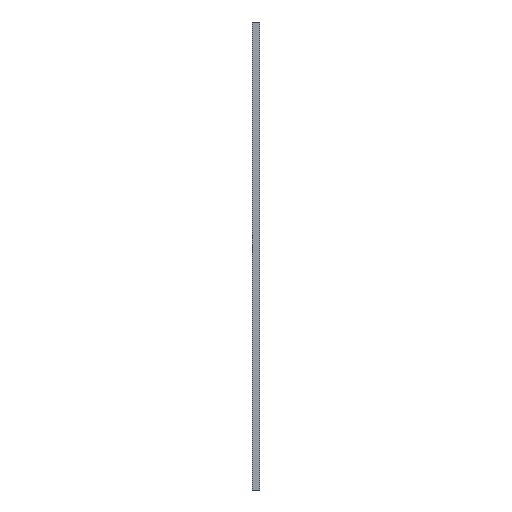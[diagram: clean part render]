
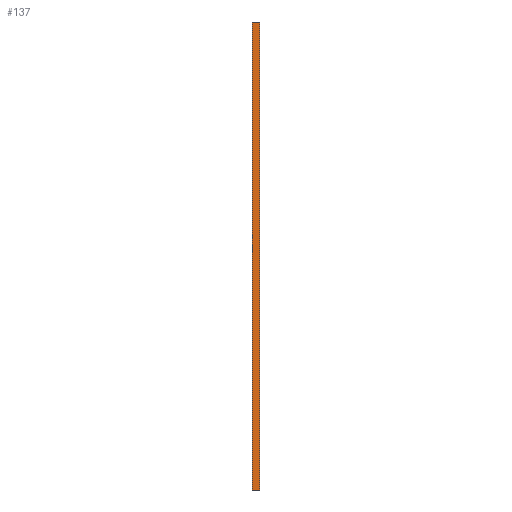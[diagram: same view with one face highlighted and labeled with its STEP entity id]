
A CAD part, front view. The second image highlights one B-rep face of the part: STEP entity #137.
In plain terms, the highlighted planar face has unit normal (0, -1, 0).
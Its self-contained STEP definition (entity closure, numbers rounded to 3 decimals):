
#21 = EDGE_CURVE('',#22,#24,#26,.T.);
#22 = VERTEX_POINT('',#23);
#23 = CARTESIAN_POINT('',(1254.,-210.,-185.));
#24 = VERTEX_POINT('',#25);
#25 = CARTESIAN_POINT('',(1260.,-210.,-185.));
#26 = SURFACE_CURVE('',#27,(#31,#43),.PCURVE_S1.);
#27 = LINE('',#28,#29);
#28 = CARTESIAN_POINT('',(1254.,-210.,-185.));
#29 = VECTOR('',#30,1.);
#30 = DIRECTION('',(1.,0.,0.));
#31 = PCURVE('',#32,#37);
#32 = PLANE('',#33);
#33 = AXIS2_PLACEMENT_3D('',#34,#35,#36);
#34 = CARTESIAN_POINT('',(1254.,-210.,-185.));
#35 = DIRECTION('',(0.,0.,1.));
#36 = DIRECTION('',(0.,1.,0.));
#37 = DEFINITIONAL_REPRESENTATION('',(#38),#42);
#38 = LINE('',#39,#40);
#39 = CARTESIAN_POINT('',(0.,0.));
#40 = VECTOR('',#41,1.);
#41 = DIRECTION('',(0.,-1.));
#42 = ( GEOMETRIC_REPRESENTATION_CONTEXT(2) 
PARAMETRIC_REPRESENTATION_CONTEXT() REPRESENTATION_CONTEXT('2D SPACE',''
  ) );
#43 = PCURVE('',#44,#49);
#44 = PLANE('',#45);
#45 = AXIS2_PLACEMENT_3D('',#46,#47,#48);
#46 = CARTESIAN_POINT('',(1254.,-210.,185.));
#47 = DIRECTION('',(-0.,1.,0.));
#48 = DIRECTION('',(0.,0.,-1.));
#49 = DEFINITIONAL_REPRESENTATION('',(#50),#54);
#50 = LINE('',#51,#52);
#51 = CARTESIAN_POINT('',(370.,0.));
#52 = VECTOR('',#53,1.);
#53 = DIRECTION('',(0.,-1.));
#54 = ( GEOMETRIC_REPRESENTATION_CONTEXT(2) 
PARAMETRIC_REPRESENTATION_CONTEXT() REPRESENTATION_CONTEXT('2D SPACE',''
  ) );
#72 = PLANE('',#73);
#73 = AXIS2_PLACEMENT_3D('',#74,#75,#76);
#74 = CARTESIAN_POINT('',(1260.,0.,0.));
#75 = DIRECTION('',(1.,0.,0.));
#76 = DIRECTION('',(-0.,0.,1.));
#126 = PLANE('',#127);
#127 = AXIS2_PLACEMENT_3D('',#128,#129,#130);
#128 = CARTESIAN_POINT('',(1254.,0.,0.));
#129 = DIRECTION('',(1.,0.,0.));
#130 = DIRECTION('',(-0.,0.,1.));
#137 = ADVANCED_FACE('',(#138),#44,.F.);
#138 = FACE_BOUND('',#139,.F.);
#139 = EDGE_LOOP('',(#140,#170,#191,#192));
#140 = ORIENTED_EDGE('',*,*,#141,.T.);
#141 = EDGE_CURVE('',#142,#144,#146,.T.);
#142 = VERTEX_POINT('',#143);
#143 = CARTESIAN_POINT('',(1254.,-210.,185.));
#144 = VERTEX_POINT('',#145);
#145 = CARTESIAN_POINT('',(1260.,-210.,185.));
#146 = SURFACE_CURVE('',#147,(#151,#158),.PCURVE_S1.);
#147 = LINE('',#148,#149);
#148 = CARTESIAN_POINT('',(1254.,-210.,185.));
#149 = VECTOR('',#150,1.);
#150 = DIRECTION('',(1.,0.,0.));
#151 = PCURVE('',#44,#152);
#152 = DEFINITIONAL_REPRESENTATION('',(#153),#157);
#153 = LINE('',#154,#155);
#154 = CARTESIAN_POINT('',(0.,0.));
#155 = VECTOR('',#156,1.);
#156 = DIRECTION('',(0.,-1.));
#157 = ( GEOMETRIC_REPRESENTATION_CONTEXT(2) 
PARAMETRIC_REPRESENTATION_CONTEXT() REPRESENTATION_CONTEXT('2D SPACE',''
  ) );
#158 = PCURVE('',#159,#164);
#159 = PLANE('',#160);
#160 = AXIS2_PLACEMENT_3D('',#161,#162,#163);
#161 = CARTESIAN_POINT('',(1254.,210.,185.));
#162 = DIRECTION('',(0.,0.,-1.));
#163 = DIRECTION('',(0.,-1.,0.));
#164 = DEFINITIONAL_REPRESENTATION('',(#165),#169);
#165 = LINE('',#166,#167);
#166 = CARTESIAN_POINT('',(420.,0.));
#167 = VECTOR('',#168,1.);
#168 = DIRECTION('',(0.,-1.));
#169 = ( GEOMETRIC_REPRESENTATION_CONTEXT(2) 
PARAMETRIC_REPRESENTATION_CONTEXT() REPRESENTATION_CONTEXT('2D SPACE',''
  ) );
#170 = ORIENTED_EDGE('',*,*,#171,.T.);
#171 = EDGE_CURVE('',#144,#24,#172,.T.);
#172 = SURFACE_CURVE('',#173,(#177,#184),.PCURVE_S1.);
#173 = LINE('',#174,#175);
#174 = CARTESIAN_POINT('',(1260.,-210.,185.));
#175 = VECTOR('',#176,1.);
#176 = DIRECTION('',(0.,0.,-1.));
#177 = PCURVE('',#44,#178);
#178 = DEFINITIONAL_REPRESENTATION('',(#179),#183);
#179 = LINE('',#180,#181);
#180 = CARTESIAN_POINT('',(0.,-6.));
#181 = VECTOR('',#182,1.);
#182 = DIRECTION('',(1.,0.));
#183 = ( GEOMETRIC_REPRESENTATION_CONTEXT(2) 
PARAMETRIC_REPRESENTATION_CONTEXT() REPRESENTATION_CONTEXT('2D SPACE',''
  ) );
#184 = PCURVE('',#72,#185);
#185 = DEFINITIONAL_REPRESENTATION('',(#186),#190);
#186 = LINE('',#187,#188);
#187 = CARTESIAN_POINT('',(185.,210.));
#188 = VECTOR('',#189,1.);
#189 = DIRECTION('',(-1.,0.));
#190 = ( GEOMETRIC_REPRESENTATION_CONTEXT(2) 
PARAMETRIC_REPRESENTATION_CONTEXT() REPRESENTATION_CONTEXT('2D SPACE',''
  ) );
#191 = ORIENTED_EDGE('',*,*,#21,.F.);
#192 = ORIENTED_EDGE('',*,*,#193,.F.);
#193 = EDGE_CURVE('',#142,#22,#194,.T.);
#194 = SURFACE_CURVE('',#195,(#199,#206),.PCURVE_S1.);
#195 = LINE('',#196,#197);
#196 = CARTESIAN_POINT('',(1254.,-210.,185.));
#197 = VECTOR('',#198,1.);
#198 = DIRECTION('',(0.,0.,-1.));
#199 = PCURVE('',#44,#200);
#200 = DEFINITIONAL_REPRESENTATION('',(#201),#205);
#201 = LINE('',#202,#203);
#202 = CARTESIAN_POINT('',(0.,0.));
#203 = VECTOR('',#204,1.);
#204 = DIRECTION('',(1.,0.));
#205 = ( GEOMETRIC_REPRESENTATION_CONTEXT(2) 
PARAMETRIC_REPRESENTATION_CONTEXT() REPRESENTATION_CONTEXT('2D SPACE',''
  ) );
#206 = PCURVE('',#126,#207);
#207 = DEFINITIONAL_REPRESENTATION('',(#208),#212);
#208 = LINE('',#209,#210);
#209 = CARTESIAN_POINT('',(185.,210.));
#210 = VECTOR('',#211,1.);
#211 = DIRECTION('',(-1.,0.));
#212 = ( GEOMETRIC_REPRESENTATION_CONTEXT(2) 
PARAMETRIC_REPRESENTATION_CONTEXT() REPRESENTATION_CONTEXT('2D SPACE',''
  ) );
